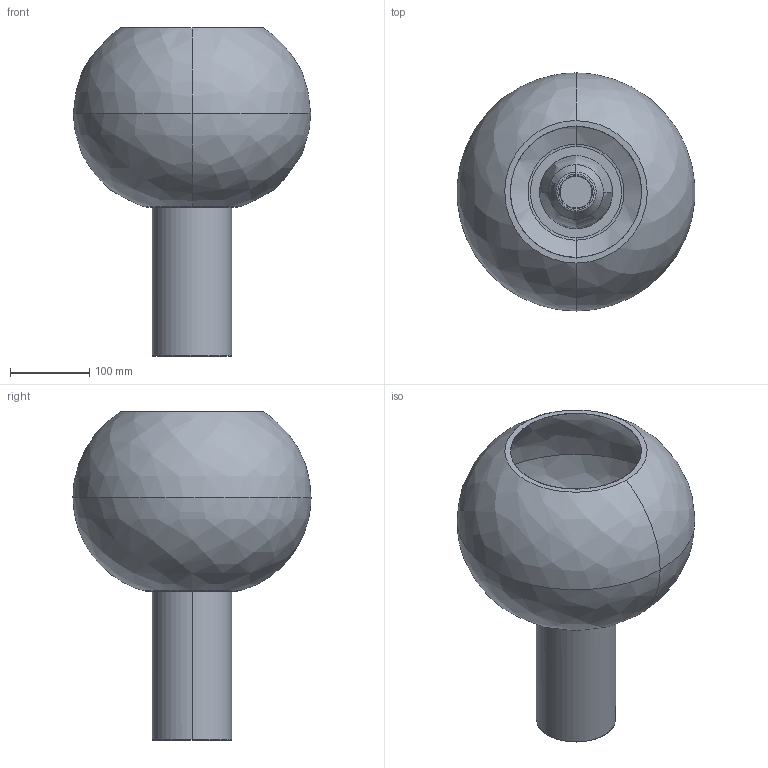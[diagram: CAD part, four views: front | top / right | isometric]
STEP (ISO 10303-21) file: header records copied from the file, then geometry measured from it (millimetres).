
FILE_DESCRIPTION(/* description */ (''),/* implementation_level */ '2;1');
FILE_NAME(/* name */ 'BUDS_3~1',/* time_stamp */ '2016-08-22T15:57:03+02:00',/* author */ (''),/* organization */ (''),/* preprocessor_version */ 'ST-DEVELOPER v15',/* originating_system */ '',/* authorisation */ '');
FILE_SCHEMA (('AUTOMOTIVE_DESIGN'));
Length unit declared in the file: millimetre
Products named in the file (6): Document; 278M01; 278P10; 278V00_Buds 3; 278V013; 278P013
Assembly tree (5 placements, depth 4):
  Document
    278M01
      278P10
      278V00_Buds 3
        278V013
      278P013
Bounding box: 299.44 x 300.22 x 414 mm (x, y, z)
Volume: 2427982.7 mm3; surface area: 567135.3 mm2
Topology: 2 solids, 3 shells, 266 faces, 739 edges, 472 vertices
Faces by surface type: bspline 232, plane 34
Entity records: 16948 total; most frequent: CARTESIAN_POINT 12527, ORIENTED_EDGE 1430, EDGE_CURVE 739, B_SPLINE_CURVE_WITH_KNOTS 582, VERTEX_POINT 472, EDGE_LOOP 285, ADVANCED_FACE 266, FACE_OUTER_BOUND 266
